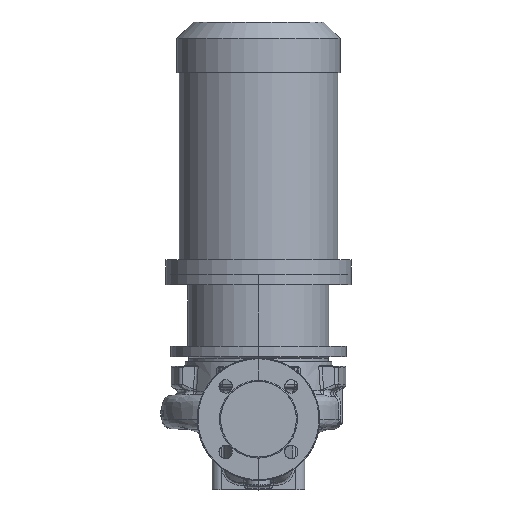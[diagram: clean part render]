
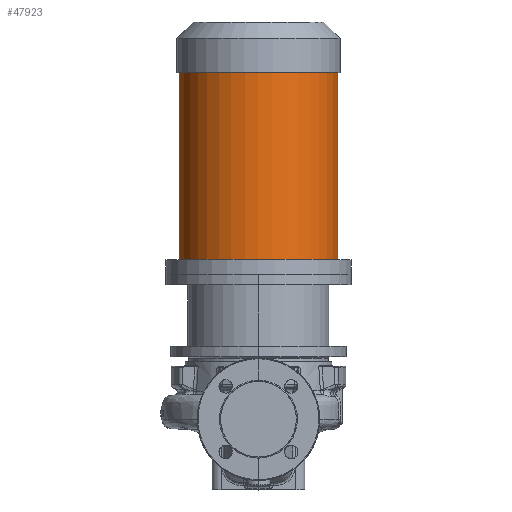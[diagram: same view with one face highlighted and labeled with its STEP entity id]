
A CAD part, top view. The second image highlights one B-rep face of the part: STEP entity #47923.
In plain terms, the highlighted cylindrical face has radius 107 mm (diameter 214 mm), a partial arc.
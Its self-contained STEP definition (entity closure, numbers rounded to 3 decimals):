
#1803 = CARTESIAN_POINT ( 'NONE',  ( -107., 215.3, 0. ) ) ;
#2939 = CIRCLE ( 'NONE', #39283, 107. ) ;
#3060 = CARTESIAN_POINT ( 'NONE',  ( -107., 195.3, 0. ) ) ;
#4447 = CARTESIAN_POINT ( 'NONE',  ( 0., 467.3, 0. ) ) ;
#4924 = DIRECTION ( 'NONE',  ( 0., -1., 0. ) ) ;
#6236 = EDGE_CURVE ( 'NONE', #9739, #41525, #2939, .T. ) ;
#6921 = CARTESIAN_POINT ( 'NONE',  ( 0., 215.3, 0. ) ) ;
#8176 = DIRECTION ( 'NONE',  ( 0., -1., 0. ) ) ;
#9739 = VERTEX_POINT ( 'NONE', #76573 ) ;
#9787 = CARTESIAN_POINT ( 'NONE',  ( -107., 467.3, 0. ) ) ;
#11559 = LINE ( 'NONE', #80005, #62962 ) ;
#16618 = EDGE_CURVE ( 'NONE', #68432, #41525, #80273, .T. ) ;
#19870 = ORIENTED_EDGE ( 'NONE', *, *, #64308, .T. ) ;
#23618 = CARTESIAN_POINT ( 'NONE',  ( 0., 195.3, 0. ) ) ;
#25256 = DIRECTION ( 'NONE',  ( -1., 0., 0. ) ) ;
#26342 = CIRCLE ( 'NONE', #61068, 107. ) ;
#26355 = ORIENTED_EDGE ( 'NONE', *, *, #39124, .F. ) ;
#28138 = VERTEX_POINT ( 'NONE', #76313 ) ;
#29446 = AXIS2_PLACEMENT_3D ( 'NONE', #23618, #4924, #35838 ) ;
#35499 = ORIENTED_EDGE ( 'NONE', *, *, #16618, .T. ) ;
#35838 = DIRECTION ( 'NONE',  ( -1., 0., 0. ) ) ;
#39124 = EDGE_CURVE ( 'NONE', #28138, #9739, #11559, .T. ) ;
#39283 = AXIS2_PLACEMENT_3D ( 'NONE', #6921, #57084, #50873 ) ;
#41525 = VERTEX_POINT ( 'NONE', #1803 ) ;
#44802 = EDGE_LOOP ( 'NONE', ( #26355, #19870, #35499, #49926 ) ) ;
#47923 = ADVANCED_FACE ( 'NONE', ( #51302 ), #80395, .T. ) ;
#48101 = DIRECTION ( 'NONE',  ( 0., -1., 0. ) ) ;
#49926 = ORIENTED_EDGE ( 'NONE', *, *, #6236, .F. ) ;
#50873 = DIRECTION ( 'NONE',  ( -1., 0., 0. ) ) ;
#51180 = VECTOR ( 'NONE', #8176, 1000. ) ;
#51302 = FACE_OUTER_BOUND ( 'NONE', #44802, .T. ) ;
#55082 = DIRECTION ( 'NONE',  ( 0., -1., 0. ) ) ;
#57084 = DIRECTION ( 'NONE',  ( 0., -1., 0. ) ) ;
#61068 = AXIS2_PLACEMENT_3D ( 'NONE', #4447, #48101, #25256 ) ;
#62962 = VECTOR ( 'NONE', #55082, 1000. ) ;
#64308 = EDGE_CURVE ( 'NONE', #28138, #68432, #26342, .T. ) ;
#68432 = VERTEX_POINT ( 'NONE', #9787 ) ;
#76313 = CARTESIAN_POINT ( 'NONE',  ( 107., 467.3, 0. ) ) ;
#76573 = CARTESIAN_POINT ( 'NONE',  ( 107., 215.3, 0. ) ) ;
#80005 = CARTESIAN_POINT ( 'NONE',  ( 107., 195.3, 0. ) ) ;
#80273 = LINE ( 'NONE', #3060, #51180 ) ;
#80395 = CYLINDRICAL_SURFACE ( 'NONE', #29446, 107. ) ;
